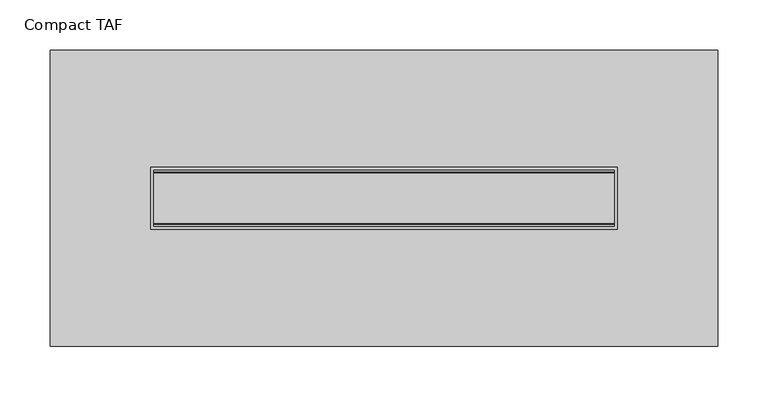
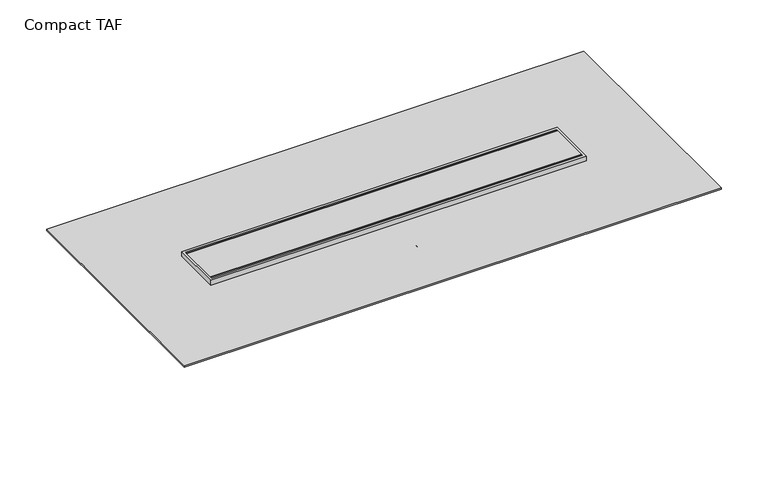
"""IFC4 building model written with IfcOpenShell, lengths in millimetres: sanitary terminal geometry, NLRS_PF_52_UN_Compact TAF_Easydrain : Compact TAF."""

import ifcopenshell
import ifcopenshell.guid

model = None  # the IFC model being written
_history = None  # IfcOwnerHistory: only IFC2X3 demands one
_inside = {}  # id of a spatial element -> (the spatial element, [elements in it])
_under = {}  # id of a project, library or spatial element -> (it, [spatial elements below it])
_declared = {}  # id of a project -> (the project, [libraries it declares])
_typed = {}  # id of a type object -> (the type object, [elements of that type])
_made_of = {}  # id of a material, layer set ... -> (it, [elements and type objects made of it])


def new_model(schema):
    """Start an empty IFC model of exactly this schema.

    Asked for "IFC4X3", IfcOpenShell would pick the latest addendum, in which some entities
    have other attributes; the version numbers below select the first issue.
    IFC2X3 requires an IfcOwnerHistory on every rooted entity: one is made here for all.
    """
    global model, _history
    if schema == "IFC4X3":
        model = ifcopenshell.file(schema_version=(4, 3, 0, 0))
    else:
        model = ifcopenshell.file(schema=schema)
    _inside.clear()
    _under.clear()
    _declared.clear()
    _typed.clear()
    _made_of.clear()
    _history = None
    if model.schema == "IFC2X3":
        org = make("IfcOrganization", Name="unknown")
        user = make(
            "IfcPersonAndOrganization",
            ThePerson=make("IfcPerson", FamilyName="unknown"),
            TheOrganization=org,
        )
        app = make(
            "IfcApplication",
            ApplicationDeveloper=org,
            Version="unknown",
            ApplicationFullName="unknown",
            ApplicationIdentifier="unknown",
        )
        _history = make(
            "IfcOwnerHistory",
            OwningUser=user,
            OwningApplication=app,
            ChangeAction="ADDED",
            CreationDate=0,
        )
    return model


def make(cls, **values):
    """One entity of the class cls with the attributes given. An attribute that is None is left unset."""
    return model.create_entity(
        cls, **{name: value for name, value in values.items() if value is not None}
    )


def rooted(cls, **values):
    """An entity with a GlobalId (a new one), such as an element, a storey or a relation."""
    return make(cls, GlobalId=ifcopenshell.guid.new(), OwnerHistory=_history, **values)


def si_unit(unit_type, name, prefix=None):
    """IfcSIUnit, for example si_unit("LENGTHUNIT", "METRE", prefix="MILLI")."""
    return make("IfcSIUnit", UnitType=unit_type, Prefix=prefix, Name=name)


def assignment(units):
    """IfcUnitAssignment: the units of a project."""
    return None if units is None else make("IfcUnitAssignment", Units=units)


def point(xyz):
    """IfcCartesianPoint."""
    return None if xyz is None else make("IfcCartesianPoint", Coordinates=xyz)


def direction(xyz):
    """IfcDirection."""
    return None if xyz is None else make("IfcDirection", DirectionRatios=xyz)


def frame(location, z_axis=None, x_axis=None):
    """IfcAxis2Placement3D, a coordinate frame: its origin and axes. An axis left out is left unset."""
    return make(
        "IfcAxis2Placement3D",
        Location=point(location),
        Axis=direction(z_axis),
        RefDirection=direction(x_axis),
    )


def origin():
    """The frame at (0, 0, 0) with its axes left unset."""
    return frame((0.0, 0.0, 0.0))


def place(relative_to, where):
    """IfcLocalPlacement: puts the frame where relative to a parent placement (None: the world)."""
    return make(
        "IfcLocalPlacement", PlacementRelTo=relative_to, RelativePlacement=where
    )


def context(
    kind, dimensions, precision=None, world=None, true_north=None, identifier=None
):
    """IfcGeometricRepresentationContext, for example the 3D "Model" context."""
    return make(
        "IfcGeometricRepresentationContext",
        ContextIdentifier=identifier,
        ContextType=kind,
        CoordinateSpaceDimension=dimensions,
        Precision=precision,
        WorldCoordinateSystem=world,
        TrueNorth=true_north,
    )


def project(units=None, contexts=None):
    """IfcProject with its units and contexts."""
    return rooted(
        "IfcProject",
        Name="project",
        RepresentationContexts=contexts,
        UnitsInContext=assignment(units),
    )


def spatial(cls, under=None, at=None, **own):
    """A site, building, storey or space (cls), placed at a placement, below another one or the project."""
    s = rooted(cls, ObjectPlacement=at, **own)
    if under is not None:
        _under.setdefault(under.id(), (under, []))[1].append(s)
    return s


def polyline(points):
    """IfcPolyline through the points."""
    return make("IfcPolyline", Points=[point(p) for p in points])


def circle_curve(where, radius):
    """IfcCircle in the frame where."""
    return make("IfcCircle", Position=where, Radius=radius)


def ellipse_curve(where, semi_axis1, semi_axis2):
    """IfcEllipse in the frame where."""
    return make(
        "IfcEllipse", Position=where, SemiAxis1=semi_axis1, SemiAxis2=semi_axis2
    )


def outline(outer, holes=None, kind="AREA"):
    """IfcArbitraryClosedProfileDef: a profile drawn as a closed curve; with holes, ...WithVoids."""
    if holes is None:
        return make("IfcArbitraryClosedProfileDef", ProfileType=kind, OuterCurve=outer)
    return make(
        "IfcArbitraryProfileDefWithVoids",
        ProfileType=kind,
        OuterCurve=outer,
        InnerCurves=holes,
    )


def extrude(swept, where, along, depth):
    """IfcExtrudedAreaSolid: the profile swept, set in the frame where, extruded along a direction by depth."""
    return make(
        "IfcExtrudedAreaSolid",
        SweptArea=swept,
        Position=where,
        ExtrudedDirection=direction(along),
        Depth=depth,
    )


def shape(context_of_items, identifier, shape_type, items):
    """IfcShapeRepresentation: the items that make up one representation, for example the "Body"."""
    return make(
        "IfcShapeRepresentation",
        ContextOfItems=context_of_items,
        RepresentationIdentifier=identifier,
        RepresentationType=shape_type,
        Items=items,
    )


def source(mapping_origin, context_of_items, identifier, shape_type, items):
    """IfcRepresentationMap: a shape defined once, which mapped items show again and again."""
    return make(
        "IfcRepresentationMap",
        MappingOrigin=mapping_origin,
        MappedRepresentation=shape(context_of_items, identifier, shape_type, items),
    )


def transform(
    local_origin,
    x_axis=None,
    y_axis=None,
    z_axis=None,
    scale=None,
    scale2=None,
    scale3=None,
    uniform=True,
):
    """IfcCartesianTransformationOperator3D, or its non-uniform kind. x_axis, y_axis, z_axis: its Axis1, 2, 3."""
    if uniform:
        return make(
            "IfcCartesianTransformationOperator3D",
            Axis1=direction(x_axis),
            Axis2=direction(y_axis),
            LocalOrigin=point(local_origin),
            Scale=scale,
            Axis3=direction(z_axis),
        )
    return make(
        "IfcCartesianTransformationOperator3DnonUniform",
        Axis1=direction(x_axis),
        Axis2=direction(y_axis),
        LocalOrigin=point(local_origin),
        Scale=scale,
        Axis3=direction(z_axis),
        Scale2=scale2,
        Scale3=scale3,
    )


def mapped(mapping_source, mapping_target):
    """IfcMappedItem: shows the shape of a source again, moved by a transform."""
    return make(
        "IfcMappedItem", MappingSource=mapping_source, MappingTarget=mapping_target
    )


def made_of(thing, what):
    """Note that an element or type object is made of a material, layer set ...; save() writes the relation."""
    if what is not None:
        _made_of.setdefault(what.id(), (what, []))[1].append(thing)
    return thing


def element(
    cls,
    number,
    at=None,
    inside=None,
    cuts=None,
    type_object=None,
    material=None,
    context=None,
    identifier="Body",
    shape_type=None,
    held_by="IfcProductDefinitionShape",
    body=None,
    shapes=None,
    **own,
):
    """One element of the class cls, such as IfcWall. Its Tag is "e" and its number.

    at: its placement. inside: the storey or other place that contains it. cuts: it is an
    opening in that element (IfcRelVoidsElement). A single representation is given by context,
    identifier, shape_type and body (its items); several are given by shapes. held_by: the class
    of the entity that holds the representations. save() writes the other relations.
    """
    e = rooted(cls, Tag="e%d" % number, ObjectPlacement=at, **own)
    if body is not None:
        shapes = [shape(context, identifier, shape_type, body)]
    if shapes is not None:
        e.Representation = make(held_by, Representations=shapes)
    if inside is not None:
        _inside.setdefault(inside.id(), (inside, []))[1].append(e)
    if cuts is not None:
        rooted(
            "IfcRelVoidsElement", RelatingBuildingElement=cuts, RelatedOpeningElement=e
        )
    if type_object is not None:
        _typed.setdefault(type_object.id(), (type_object, []))[1].append(e)
    return made_of(e, material)


def aggregate(whole, parts):
    """IfcRelAggregates: a whole, such as a stair, and the parts it consists of."""
    return rooted("IfcRelAggregates", RelatingObject=whole, RelatedObjects=parts)


def save(model, path):
    """Write the relations noted so far, then the file.

    IfcRelAggregates (storeys below a building ...), IfcRelContainedInSpatialStructure (elements
    in a storey), IfcRelDefinesByType, IfcRelAssociatesMaterial and IfcRelDeclares: one each for
    every whole, place, type object, material and project.
    """
    for whole, parts in _under.values():
        aggregate(whole, parts)
    for where, things in _inside.values():
        rooted(
            "IfcRelContainedInSpatialStructure",
            RelatedElements=things,
            RelatingStructure=where,
        )
    for kind, things in _typed.values():
        rooted("IfcRelDefinesByType", RelatedObjects=things, RelatingType=kind)
    for what, things in _made_of.values():
        rooted("IfcRelAssociatesMaterial", RelatedObjects=things, RelatingMaterial=what)
    for by, libraries in _declared.values():
        rooted("IfcRelDeclares", RelatingContext=by, RelatedDefinitions=libraries)
    model.write(path)


def plane_surface(at):
    """IfcPlane: the flat surface through the origin of the frame at, square to its z axis."""
    return make("IfcPlane", Position=at)


def cylinder_surface(at, radius):
    """IfcCylindricalSurface: all points at the distance radius from the z axis of the frame at."""
    return make("IfcCylindricalSurface", Position=at, Radius=radius)


def advanced_brep(points, edges, surfaces, faces):
    """IfcAdvancedBrep: a solid bounded by faces that lie on surfaces and meet in shared edges.

    An edge is (start, end): straight between two places in points (the first is 0);
    or (start, end, curve); or (start, end, curve, False) where it runs against its curve.
    A face is (place in surfaces, loops), or (place, loops, False) where it looks against
    its surface's normal. A loop lists edges by number (the first is 1), with a minus sign
    where the edge is run from its end to its start. The first loop is the outer one.
    """
    corners = [point(p) for p in points]
    vertices = [make("IfcVertexPoint", VertexGeometry=c) for c in corners]
    made = []
    for start, end, *more in edges:
        made.append(
            make(
                "IfcEdgeCurve",
                EdgeStart=vertices[start],
                EdgeEnd=vertices[end],
                EdgeGeometry=more[0] if more else make("IfcPolyline", Points=[corners[start], corners[end]]),
                SameSense=more[1] if len(more) > 1 else True,
            )
        )
    hull = []
    for where, loops, *sense in faces:
        bounds = []
        for j, loop in enumerate(loops):
            ring = [make("IfcOrientedEdge", EdgeElement=made[abs(k) - 1], Orientation=k > 0) for k in loop]
            bounds.append(
                make(
                    "IfcFaceOuterBound" if j == 0 else "IfcFaceBound",
                    Bound=make("IfcEdgeLoop", EdgeList=ring),
                    Orientation=True,
                )
            )
        hull.append(make("IfcAdvancedFace", Bounds=bounds, FaceSurface=surfaces[where], SameSense=sense[0] if sense else True))
    return make("IfcAdvancedBrep", Outer=make("IfcClosedShell", CfsFaces=hull))


def compact_taf_2342890d(model_context):
    return source(origin(), model_context, "Body", "SolidModel", [
        extrude(outline(polyline([(229.5, 25.0), (229.5, -25.0), (-229.5, -25.0), (-229.5, 25.0), (229.5, 25.0)])), frame((0.0, 0.0, -12.0), z_axis=(0.0, 0.0, 1.0), x_axis=(1.0, 0.0, 0.0)), (0.0, 0.0, 1.0), 12.0),
        extrude(outline(polyline([(229.5, 26.0), (229.5, 25.0), (-229.5, 25.0), (-229.5, 26.0), (229.5, 26.0)])), frame((0.0, 0.0, -12.0), z_axis=(0.0, 0.0, 1.0), x_axis=(1.0, 0.0, 0.0)), (0.0, 0.0, 1.0), 12.0),
        extrude(outline(polyline([(229.5, -26.0), (-229.5, -26.0), (-229.5, -25.0), (229.5, -25.0), (229.5, -26.0)])), frame((0.0, 0.0, -12.0), z_axis=(0.0, 0.0, 1.0), x_axis=(1.0, 0.0, 0.0)), (0.0, 0.0, 1.0), 12.0),
        extrude(outline(polyline([(332.5, 147.5), (332.5, -147.5), (-332.5, -147.5), (-332.5, 147.5), (332.5, 147.5)]), holes=[polyline([(232.5, 31.0), (-232.5, 31.0), (-232.5, -31.0), (232.5, -31.0), (232.5, 31.0)])]), frame((0.0, 0.0, -8.0), z_axis=(0.0, 0.0, 1.0), x_axis=(1.0, 0.0, 0.0)), (0.0, 0.0, 1.0), 2.0),
        advanced_brep(
        [(-232.5, -31.0, -25.0), (-110.0, -31.0, -27.0), (-110.0, -31.0, -90.0), (110.0, -31.0, -90.0), (110.0, -31.0, -27.0), (232.5, -31.0, -25.0), (232.5, -31.0, -9.0), (-232.5, -31.0, -9.0), (0.0, -31.0, -30.0), (0.0, -31.0, -80.0), (232.5, -31.0, 0.0), (-232.5, -31.0, 0.0), (-232.5, -31.0, -7.0), (232.5, -31.0, -7.0), (-232.5, 31.0, 0.0), (232.5, 31.0, 0.0), (232.5, 31.0, -7.0), (-232.5, 31.0, -7.0), (232.5, 31.0, -25.0), (110.0, 31.0, -27.0), (110.0, 31.0, -90.0), (-110.0, 31.0, -90.0), (-110.0, 31.0, -27.0), (-232.5, 31.0, -25.0), (-232.5, 31.0, -9.0), (232.5, 31.0, -9.0), (-212.5, 0.0, -25.3265306), (-172.5, 0.0, -25.9795918), (232.5, 30.0, -9.0), (232.5, -30.0, -9.0), (232.5, -30.0, -7.0), (232.5, 30.0, -7.0), (-229.5, 28.0, 0.0), (229.5, 28.0, 0.0), (229.5, -28.0, 0.0), (-229.5, -28.0, 0.0), (-232.5, -30.0, -9.0), (-232.5, 30.0, -9.0), (-232.5, 30.0, -7.0), (-232.5, -30.0, -7.0), (172.5, 0.0, -25.9795918), (212.5, 0.0, -25.3265306), (0.0, -50.0, -30.0), (0.0, -50.0, -80.0), (229.5, 28.0, -12.0), (-229.5, 28.0, -12.0), (-229.5, -28.0, -12.0), (229.5, -28.0, -12.0), (250.0, 47.5, -7.0), (-250.0, 47.5, -7.0), (-250.0, -64.5, -7.0), (250.0, -64.5, -7.0), (250.0, 47.5, -9.0), (250.0, -64.5, -9.0), (-250.0, -64.5, -9.0), (-250.0, 47.5, -9.0), (-212.5, 0.0, -90.0), (-172.5, 0.0, -90.0), (172.5, 0.0, -90.0), (212.5, 0.0, -90.0)],
        [
            (0, 1),
            (1, 2),
            (2, 3),
            (3, 4),
            (4, 5),
            (5, 6),
            (6, 7),
            (7, 0),
            (8, 9, circle_curve(frame((0.0, -31.0, -55.0), z_axis=(0.0, 1.0, 0.0), x_axis=(0.0, 0.0, -1.0)), 25.0)),
            (9, 8, circle_curve(frame((0.0, -31.0, -55.0), z_axis=(0.0, 1.0, 0.0), x_axis=(0.0, 0.0, -1.0)), 25.0)),
            (10, 11),
            (11, 12),
            (12, 13),
            (13, 10),
            (14, 15),
            (15, 16),
            (16, 17),
            (17, 14),
            (18, 19),
            (19, 20),
            (20, 21),
            (21, 22),
            (22, 23),
            (23, 24),
            (24, 25),
            (25, 18),
            (0, 23),
            (22, 1),
            (26, 27, ellipse_curve(frame((-192.5, 0.0, -25.6530612), z_axis=(0.01632435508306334, 0.0, 0.9998667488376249), x_axis=(-0.9998667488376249, 0.0, 0.01632435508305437)), 20.0026654, 20.0)),
            (27, 26, ellipse_curve(frame((-192.5, 0.0, -25.6530612), z_axis=(0.01632435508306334, 0.0, 0.9998667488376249), x_axis=(-0.9998667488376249, 0.0, 0.01632435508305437)), 20.0026654, 20.0)),
            (5, 18),
            (25, 28),
            (28, 29),
            (29, 6),
            (15, 10),
            (13, 30),
            (30, 31),
            (31, 16),
            (14, 11),
            (32, 33),
            (33, 34),
            (34, 35),
            (35, 32),
            (7, 36),
            (36, 37),
            (37, 24),
            (17, 38),
            (38, 39),
            (39, 12),
            (21, 2),
            (20, 3),
            (19, 4),
            (40, 41, ellipse_curve(frame((192.5, 0.0, -25.6530612), z_axis=(-0.016324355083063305, 0.0, 0.9998667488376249), x_axis=(0.9998667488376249, 0.0, 0.016324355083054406)), 20.0026654, 20.0)),
            (41, 40, ellipse_curve(frame((192.5, 0.0, -25.6530612), z_axis=(-0.016324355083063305, 0.0, 0.9998667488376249), x_axis=(0.9998667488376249, 0.0, 0.016324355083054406)), 20.0026654, 20.0)),
            (42, 43, circle_curve(frame((0.0, -50.0, -55.0), z_axis=(0.0, -1.0, 0.0), x_axis=(0.0, 0.0, -1.0)), 25.0)),
            (43, 42, circle_curve(frame((0.0, -50.0, -55.0), z_axis=(0.0, -1.0, 0.0), x_axis=(0.0, 0.0, -1.0)), 25.0)),
            (43, 9),
            (8, 42),
            (44, 45),
            (45, 46),
            (46, 47),
            (47, 44),
            (44, 33),
            (32, 45),
            (35, 46),
            (34, 47),
            (48, 49),
            (49, 50),
            (50, 51),
            (51, 48),
            (52, 53),
            (53, 54),
            (54, 55),
            (55, 52),
            (48, 52),
            (55, 49),
            (54, 50),
            (53, 51),
            (56, 57, circle_curve(frame((-192.5, 0.0, -90.0), z_axis=(0.0, 0.0, -1.0), x_axis=(1.0, 0.0, 0.0)), 20.0)),
            (57, 56, circle_curve(frame((-192.5, 0.0, -90.0), z_axis=(0.0, 0.0, -1.0), x_axis=(1.0, 0.0, 0.0)), 20.0)),
            (58, 59, circle_curve(frame((192.5, 0.0, -90.0), z_axis=(0.0, 0.0, -1.0), x_axis=(1.0, 0.0, 0.0)), 20.0)),
            (59, 58, circle_curve(frame((192.5, 0.0, -90.0), z_axis=(0.0, 0.0, -1.0), x_axis=(1.0, 0.0, 0.0)), 20.0)),
            (57, 27),
            (26, 56),
            (59, 41),
            (40, 58),
        ],
        [
            plane_surface(frame((-232.5, -31.0, -25.0), z_axis=(0.0, -1.0000000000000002, 0.0), x_axis=(0.9998667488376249, 0.0, -0.01632435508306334))),
            plane_surface(frame((-232.5, 31.0, -25.0), z_axis=(0.0, 1.0000000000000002, 0.0), x_axis=(-0.9998667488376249, 0.0, 0.01632435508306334))),
            plane_surface(frame((-232.5, -31.0, -25.0), z_axis=(-0.01632435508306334, 0.0, -0.9998667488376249), x_axis=(0.0, 1.0, 0.0))),
            plane_surface(frame((232.5, -31.0, -25.0), z_axis=(1.0, 0.0, 0.0), x_axis=(0.0, 1.0, 0.0))),
            plane_surface(frame((232.5, -31.0, 0.0), z_axis=(0.0, 0.0, 1.0), x_axis=(0.0, 1.0, 0.0))),
            plane_surface(frame((-232.5, -31.0, 0.0), z_axis=(-1.0, 0.0, 0.0), x_axis=(0.0, 1.0, 0.0))),
            plane_surface(frame((-110.0, -31.0, -27.0), z_axis=(-1.0, 0.0, 0.0), x_axis=(0.0, 1.0, 0.0))),
            plane_surface(frame((-110.0, -31.0, -90.0), z_axis=(0.0, 0.0, -1.0), x_axis=(0.0, 1.0, 0.0))),
            plane_surface(frame((110.0, -31.0, -90.0), z_axis=(1.0, 0.0, 0.0), x_axis=(0.0, 1.0, 0.0))),
            plane_surface(frame((110.0, -31.0, -27.0), z_axis=(0.016324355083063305, 0.0, -0.9998667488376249), x_axis=(0.0, 1.0, 0.0))),
            plane_surface(frame((0.0, -50.0, -55.0), z_axis=(0.0, -1.0, 0.0), x_axis=(1.0, 0.0, 0.0))),
            cylinder_surface(frame((0.0, 0.0, -55.0), z_axis=(0.0, 1.0, 0.0), x_axis=(0.0, 0.0, -1.0)), 25.0),
            plane_surface(frame((-229.5, 28.0, -12.0), z_axis=(0.0, 0.0, 1.0), x_axis=(1.0, 0.0, 0.0))),
            plane_surface(frame((229.5, 28.0, 25.5943996), z_axis=(0.0, -1.0, 0.0), x_axis=(0.0, 0.0, -1.0))),
            plane_surface(frame((-229.5, 28.0, 25.5943996), z_axis=(1.0, 0.0, 0.0), x_axis=(0.0, 0.0, -1.0))),
            plane_surface(frame((-229.5, -28.0, 25.5943996), z_axis=(0.0, 1.0, 0.0), x_axis=(0.0, 0.0, -1.0))),
            plane_surface(frame((229.5, -28.0, 25.5943996), z_axis=(-1.0, 0.0, 0.0), x_axis=(0.0, 0.0, -1.0))),
            plane_surface(frame((232.5, 30.0, -7.0), z_axis=(0.0, 0.0, 1.0), x_axis=(0.0, -1.0, 0.0))),
            plane_surface(frame((232.5, 30.0, -9.0), z_axis=(0.0, 0.0, -1.0), x_axis=(0.0, 1.0, 0.0))),
            plane_surface(frame((250.0, 47.5, -7.0), z_axis=(0.0, 1.0, 0.0), x_axis=(0.0, 0.0, -1.0))),
            plane_surface(frame((-250.0, 47.5, -7.0), z_axis=(-1.0, 0.0, 0.0), x_axis=(0.0, 0.0, -1.0))),
            plane_surface(frame((-250.0, -64.5, -7.0), z_axis=(0.0, -1.0, 0.0), x_axis=(0.0, 0.0, -1.0))),
            plane_surface(frame((250.0, -64.5, -7.0), z_axis=(1.0, 0.0, 0.0), x_axis=(0.0, 0.0, -1.0))),
            plane_surface(frame((-172.5, 0.0, -90.0), z_axis=(0.0, 0.0, -1.0), x_axis=(0.0, -1.0, 0.0))),
            cylinder_surface(frame((-192.5, 0.0, -90.0), z_axis=(0.0, 0.0, 1.0), x_axis=(1.0, 0.0, 0.0)), 20.0),
            cylinder_surface(frame((192.5, 0.0, 0.0), z_axis=(0.0, 0.0, 1.0), x_axis=(1.0, 0.0, 0.0)), 20.0),
        ],
        [
            (0, [[1, 2, 3, 4, 5, 6, 7, 8], [9, 10]]),
            (0, [[11, 12, 13, 14]]),
            (1, [[15, 16, 17, 18]]),
            (1, [[19, 20, 21, 22, 23, 24, 25, 26]]),
            (2, [[-1, 27, -23, 28], [29, 30]]),
            (3, [[31, -26, 32, 33, 34, -6]]),
            (3, [[35, -14, 36, 37, 38, -16]]),
            (4, [[-11, -35, -15, 39], [40, 41, 42, 43]]),
            (5, [[-27, -8, 44, 45, 46, -24]]),
            (5, [[-39, -18, 47, 48, 49, -12]]),
            (6, [[-2, -28, -22, 50]]),
            (7, [[-3, -50, -21, 51]]),
            (8, [[-4, -51, -20, 52]]),
            (9, [[-5, -52, -19, -31], [53, 54]]),
            (10, [[55, 56]]),
            (11, [[-56, 57, -9, 58]]),
            (11, [[-55, -58, -10, -57]]),
            (12, [[59, 60, 61, 62]]),
            (13, [[-59, 63, -40, 64]]),
            (14, [[-60, -64, -43, 65]]),
            (15, [[-61, -65, -42, 66]]),
            (16, [[-62, -66, -41, -63]]),
            (17, [[67, 68, 69, 70], [-13, -49, -48, -47, -17, -38, -37, -36]]),
            (18, [[71, 72, 73, 74], [-7, -34, -33, -32, -25, -46, -45, -44]]),
            (19, [[-67, 75, -74, 76]]),
            (20, [[-68, -76, -73, 77]]),
            (21, [[-69, -77, -72, 78]]),
            (22, [[-70, -78, -71, -75]]),
            (23, [[79, 80]]),
            (23, [[81, 82]]),
            (24, [[-80, 83, -29, 84]]),
            (24, [[-79, -84, -30, -83]]),
            (25, [[-82, 85, -53, 86]]),
            (25, [[-81, -86, -54, -85]]),
        ],
    ),
    ])


if __name__ == "__main__":
    model = new_model("IFC4")
    model_context = context("Model", 3, world=origin())
    ifc_project = project(units=[si_unit("LENGTHUNIT", "METRE", prefix="MILLI")], contexts=[model_context])
    site = spatial("IfcSite", under=ifc_project)
    building = spatial("IfcBuilding", under=site)
    placement = place(None, origin())
    compact_taf_shape = compact_taf_2342890d(model_context)
    element("IfcSanitaryTerminal", 1, ObjectType="NLRS_PF_52_UN_Compact TAF_Easydrain : Compact TAF", at=placement, inside=building, context=model_context, shape_type="MappedRepresentation", body=[
        mapped(compact_taf_shape, transform((0.0, 0.0, 0.0), x_axis=(1.0, 0.0, 0.0), y_axis=(0.0, 1.0, 0.0), z_axis=(0.0, 0.0, 1.0))),
    ])
    save(model, "model.ifc")
